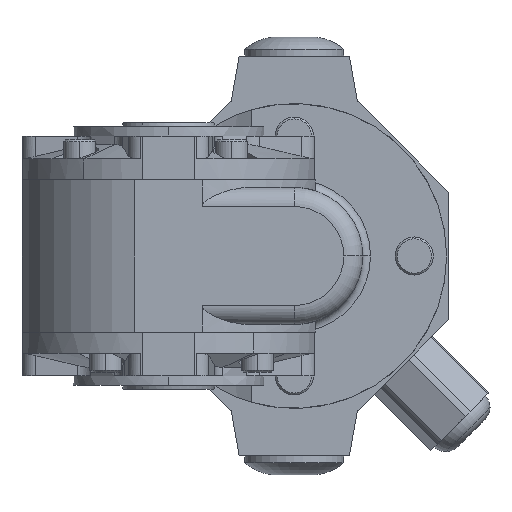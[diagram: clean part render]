
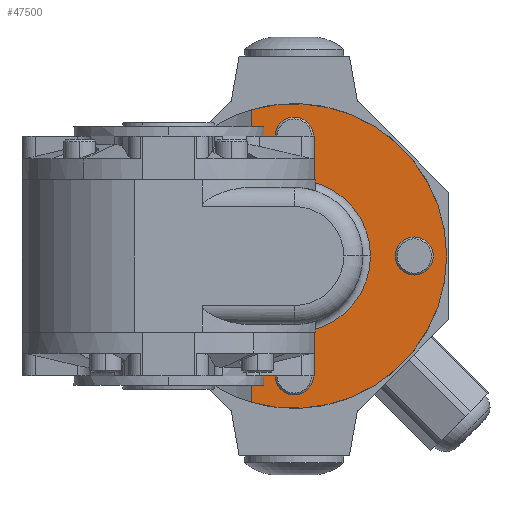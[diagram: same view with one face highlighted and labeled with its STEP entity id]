
A CAD part, left-side view. The second image highlights one B-rep face of the part: STEP entity #47500.
In plain terms, the highlighted planar face has unit normal (-1, 0, 0) as drawn and (-0.026, 0, 1) by its records, which use the part's own axes.
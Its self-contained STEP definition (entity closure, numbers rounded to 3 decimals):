
#27220=CARTESIAN_POINT('',(-52.058,455.,
27.805));
#27230=DIRECTION('',(0.026,0.,
-1.));
#27240=DIRECTION('',(1.,0.,
0.026));
#27250=AXIS2_PLACEMENT_3D('',#27220,#27230,#27240);
#27260=CIRCLE('',#27250,40.);
#27270=CARTESIAN_POINT('',(-12.072,455.,
28.852));
#27280=VERTEX_POINT('',#27270);
#27290=CARTESIAN_POINT('',(-63.197,416.583,
27.514));
#27300=VERTEX_POINT('',#27290);
#27310=EDGE_CURVE('',#27280,#27300,#27260,.T.);
#41520=CARTESIAN_POINT('',(-52.058,435.,
27.805));
#41530=VERTEX_POINT('',#41520);
#41560=CARTESIAN_POINT('',(-35.753,435.,
28.232));
#41570=DIRECTION('',(-1.,0.,
-0.026));
#41580=VECTOR('',#41570,1.);
#41590=LINE('',#41560,#41580);
#41600=CARTESIAN_POINT('',(-63.197,435.,
27.514));
#41610=VERTEX_POINT('',#41600);
#41620=EDGE_CURVE('',#41530,#41610,#41590,.T.);
#44770=CARTESIAN_POINT('',(-52.058,475.,
27.805));
#44780=VERTEX_POINT('',#44770);
#44900=CARTESIAN_POINT('',(-35.753,475.,
28.232));
#44910=DIRECTION('',(1.,0.,
0.026));
#44920=VECTOR('',#44910,1.);
#44930=LINE('',#44900,#44920);
#44940=CARTESIAN_POINT('',(-63.197,475.,
27.514));
#44950=VERTEX_POINT('',#44940);
#44980=EDGE_CURVE('',#44950,#44780,#44930,.T.);
#45130=CARTESIAN_POINT('',(-32.065,455.,
28.329));
#45140=VERTEX_POINT('',#45130);
#45270=CARTESIAN_POINT('',(-52.058,455.,
27.805));
#45280=DIRECTION('',(-0.026,0.,
1.));
#45290=DIRECTION('',(1.,0.,0.026));
#45300=AXIS2_PLACEMENT_3D('',#45270,#45280,#45290);
#45310=CIRCLE('',#45300,20.);
#45320=EDGE_CURVE('',#45140,#44780,#45310,.T.);
#46760=CARTESIAN_POINT('',(-90.545,456.32,
26.797));
#46770=DIRECTION('',(0.026,0.,
-1.));
#46780=DIRECTION('',(1.,0.,
0.026));
#46790=AXIS2_PLACEMENT_3D('',#46760,#46770,#46780);
#46800=PLANE('',#46790);
#46810=ORIENTED_EDGE('',*,*,#44980,.T.);
#46820=CARTESIAN_POINT('',(-63.197,475.,
27.514));
#46830=DIRECTION('',(0.,1.,0.));
#46840=VECTOR('',#46830,1.);
#46850=LINE('',#46820,#46840);
#46860=CARTESIAN_POINT('',(-63.197,493.417,
27.514));
#46870=VERTEX_POINT('',#46860);
#46880=EDGE_CURVE('',#44950,#46870,#46850,.T.);
#46890=ORIENTED_EDGE('',*,*,#46880,.F.);
#46900=EDGE_CURVE('',#46870,#27280,#27260,.T.);
#46910=ORIENTED_EDGE('',*,*,#46900,.F.);
#46920=ORIENTED_EDGE('',*,*,#27310,.F.);
#46930=CARTESIAN_POINT('',(-63.197,435.,
27.514));
#46940=DIRECTION('',(0.,-1.,0.));
#46950=VECTOR('',#46940,1.);
#46960=LINE('',#46930,#46950);
#46970=EDGE_CURVE('',#41610,#27300,#46960,.T.);
#46980=ORIENTED_EDGE('',*,*,#46970,.T.);
#46990=ORIENTED_EDGE('',*,*,#41620,.T.);
#47000=EDGE_CURVE('',#41530,#45140,#45310,.T.);
#47010=ORIENTED_EDGE('',*,*,#47000,.F.);
#47020=ORIENTED_EDGE('',*,*,#45320,.F.);
#47030=EDGE_LOOP('',(#47020,#47010,#46990,#46980,#46920,#46910,#46890,
#46810));
#47040=FACE_OUTER_BOUND('',#47030,.T.);
#47050=CARTESIAN_POINT('',(-20.569,455.,
28.63));
#47060=DIRECTION('',(-0.026,0.,
1.));
#47070=DIRECTION('',(0.,1.,0.));
#47080=AXIS2_PLACEMENT_3D('',#47050,#47060,#47070);
#47090=CIRCLE('',#47080,5.);
#47100=CARTESIAN_POINT('',(-20.569,460.,
28.63));
#47110=VERTEX_POINT('',#47100);
#47120=CARTESIAN_POINT('',(-20.569,450.,
28.63));
#47130=VERTEX_POINT('',#47120);
#47140=EDGE_CURVE('',#47110,#47130,#47090,.T.);
#47150=ORIENTED_EDGE('',*,*,#47140,.F.);
#47160=EDGE_CURVE('',#47130,#47110,#47090,.T.);
#47170=ORIENTED_EDGE('',*,*,#47160,.F.);
#47180=EDGE_LOOP('',(#47170,#47150));
#47190=FACE_BOUND('',#47180,.T.);
#47200=CARTESIAN_POINT('',(-52.058,423.5,
27.805));
#47210=DIRECTION('',(-0.026,0.,
1.));
#47220=DIRECTION('',(0.,1.,0.));
#47230=AXIS2_PLACEMENT_3D('',#47200,#47210,#47220);
#47240=CIRCLE('',#47230,5.);
#47250=CARTESIAN_POINT('',(-52.058,428.5,
27.805));
#47260=VERTEX_POINT('',#47250);
#47270=CARTESIAN_POINT('',(-52.058,418.5,
27.805));
#47280=VERTEX_POINT('',#47270);
#47290=EDGE_CURVE('',#47260,#47280,#47240,.T.);
#47300=ORIENTED_EDGE('',*,*,#47290,.F.);
#47310=EDGE_CURVE('',#47280,#47260,#47240,.T.);
#47320=ORIENTED_EDGE('',*,*,#47310,.F.);
#47330=EDGE_LOOP('',(#47320,#47300));
#47340=FACE_BOUND('',#47330,.T.);
#47350=CARTESIAN_POINT('',(-52.058,486.5,
27.805));
#47360=DIRECTION('',(-0.026,0.,
1.));
#47370=DIRECTION('',(0.,1.,0.));
#47380=AXIS2_PLACEMENT_3D('',#47350,#47360,#47370);
#47390=CIRCLE('',#47380,5.);
#47400=CARTESIAN_POINT('',(-52.058,491.5,
27.805));
#47410=VERTEX_POINT('',#47400);
#47420=CARTESIAN_POINT('',(-52.058,481.5,
27.805));
#47430=VERTEX_POINT('',#47420);
#47440=EDGE_CURVE('',#47410,#47430,#47390,.T.);
#47450=ORIENTED_EDGE('',*,*,#47440,.F.);
#47460=EDGE_CURVE('',#47430,#47410,#47390,.T.);
#47470=ORIENTED_EDGE('',*,*,#47460,.F.);
#47480=EDGE_LOOP('',(#47470,#47450));
#47490=FACE_BOUND('',#47480,.T.);
#47500=ADVANCED_FACE('',(#47040,#47190,#47340,#47490),#46800,.F.);
